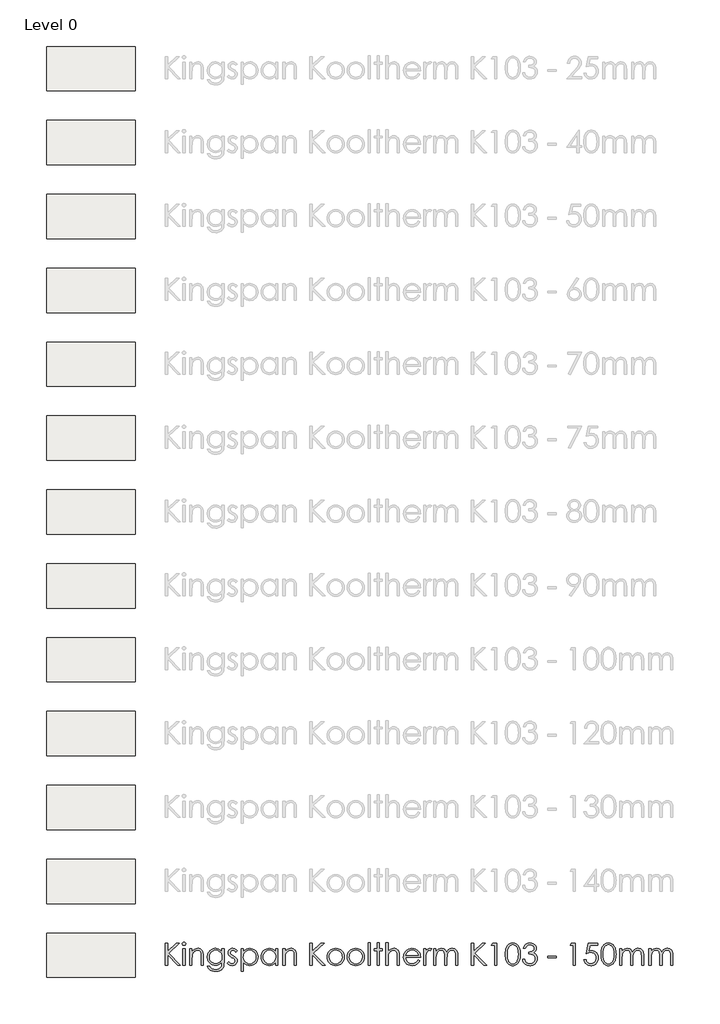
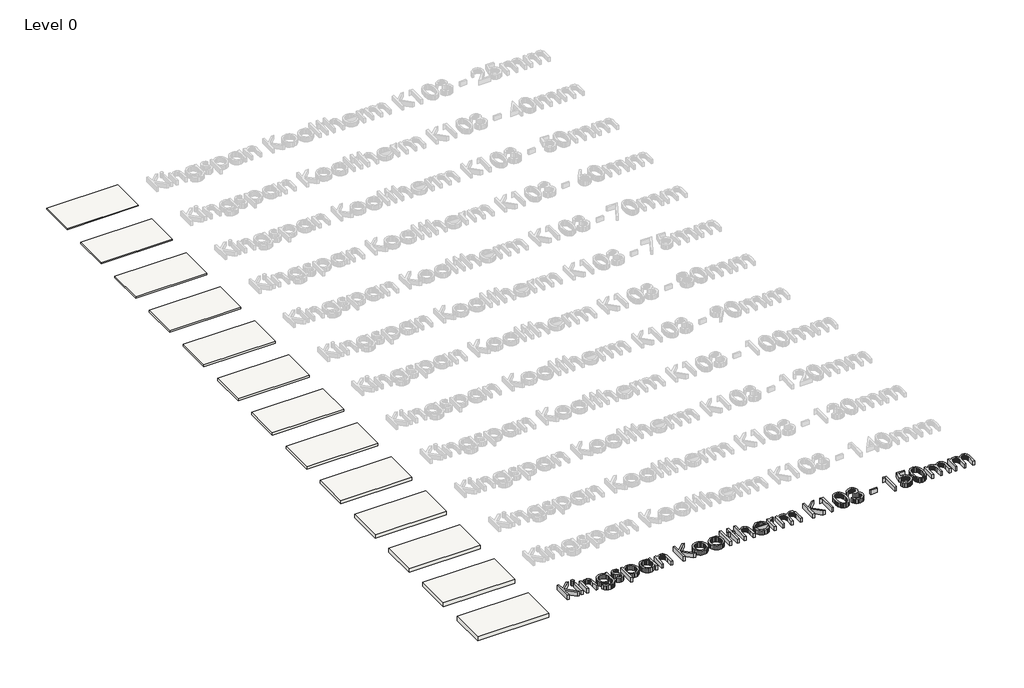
# One storey, part 1 of 13: 13 slabs, 1 proxy.
"""IFC4 building model written with IfcOpenShell, lengths in millimetres."""

from ifc_helpers import new_model, si_unit, frame, origin, origin_with_axes, place, context, project, spatial, polyline, outline, extrude, element, save

model = new_model("IFC4")

# Units and contexts
model_context = context("Model", 3, world=origin())
ifc_project = project(units=[si_unit("LENGTHUNIT", "METRE", prefix="MILLI")], contexts=[model_context])

# Site, building, storey
site = spatial("IfcSite", under=ifc_project)
building = spatial("IfcBuilding", under=site)
storey = spatial("IfcBuildingStorey", under=building, Name="Level 0", Elevation=0.0)

# Proxy
placement = place(None, origin())
element("IfcBuildingElementProxy", 1, Name="600mm KI_CenturyGothic", ObjectType="600mm KI_CenturyGothic", at=placement, inside=storey, context=model_context, shape_type="SweptSolid", body=[
    extrude(outline(polyline([(-3852.2663848, -18099.1034017), (-3792.944575, -18099.1034017), (-3792.944575, -18318.316027), (-3555.1938841, -18099.1034017), (-3471.6181051, -18099.1034017), (-3760.9664119, -18366.0515459), (-3441.9572002, -18692.3214999), (-3520.8984627, -18692.3214999), (-3792.944575, -18414.0960325), (-3792.944575, -18692.3214999), (-3852.2663848, -18692.3214999), (-3852.2663848, -18099.1034017)])), origin_with_axes(), (0.0, 0.0, 1.0), 150.0),
    extrude(outline(polyline([(-3348.1854852, -18069.4424967), (-3329.145347, -18072.7252792), (-3313.1176445, -18082.5736265), (-3302.226531, -18097.0178693), (-3298.5961598, -18114.088338), (-3302.226531, -18130.9270809), (-3313.1176445, -18145.2940817), (-3329.145347, -18155.142429), (-3348.1854852, -18158.4252115), (-3366.9938975, -18155.142429), (-3382.9443581, -18145.2940817), (-3393.8354717, -18130.9270809), (-3397.4658428, -18114.088338), (-3393.8354717, -18097.0178693), (-3382.9443581, -18082.5736265), (-3366.9938975, -18072.7252792), (-3348.1854852, -18069.4424967)])), origin_with_axes(), (0.0, 0.0, 1.0), 150.0),
    extrude(outline(polyline([(-3377.6919062, -18247.4079262), (-3318.3700964, -18247.4079262), (-3318.3700964, -18692.3214999), (-3377.6919062, -18692.3214999), (-3377.6919062, -18247.4079262)])), origin_with_axes(), (0.0, 0.0, 1.0), 150.0),
    extrude(outline(polyline([(-3189.8395084, -18247.4079262), (-3130.5176986, -18247.4079262), (-3130.5176986, -18326.5036726), (-3096.9946967, -18286.9944204), (-3060.0730495, -18259.303185), (-3019.7141359, -18242.9665147), (-2975.879335, -18237.5209579), (-2953.4357238, -18239.0995901), (-2932.2955704, -18243.8354865), (-2912.4588747, -18251.7286472), (-2893.9256368, -18262.7790723), (-2877.212412, -18276.5039994), (-2862.835756, -18292.4206667), (-2841.0921499, -18330.8292213), (-2833.6238199, -18355.2087086), (-2828.2892984, -18385.5551357), (-2824.0216812, -18464.1488095), (-2824.0216812, -18692.3214999), (-2883.343491, -18692.3214999), (-2883.343491, -18479.1337458), (-2883.343491, -18376.092998), (-2884.7290183, -18355.2956057), (-2889.8125035, -18337.2403023), (-2898.2849788, -18321.9270877), (-2910.1464442, -18309.355962), (-2924.7403432, -18299.5558909), (-2941.4101193, -18292.5558401), (-2980.977303, -18286.9557994), (-3005.3471351, -18289.1137461), (-3028.4038541, -18295.5875862), (-3050.1474602, -18306.3773197), (-3070.5779533, -18321.4829466), (-3088.6622225, -18339.7651482), (-3103.3671568, -18360.084606), (-3114.6927562, -18382.44132), (-3122.6390208, -18406.8352901), (-3128.5480292, -18453.9142525), (-3130.5176986, -18528.4141035), (-3130.5176986, -18692.3214999), (-3189.8395084, -18692.3214999), (-3189.8395084, -18247.4079262)])), origin_with_axes(), (0.0, 0.0, 1.0), 150.0),
    extrude(outline(polyline([(-2319.7862977, -18247.4079262), (-2260.4644879, -18247.4079262), (-2260.4644879, -18598.395301), (-2264.5196897, -18678.6496765), (-2269.588692, -18709.4499001), (-2276.6852953, -18734.0321474), (-2289.9371156, -18762.6454585), (-2307.2924139, -18787.7732271), (-2328.7511904, -18809.4154531), (-2354.3134448, -18827.5721366), (-2383.3226209, -18841.9343098), (-2415.122162, -18852.1930049), (-2449.7120682, -18858.348222), (-2487.0923395, -18860.3999611), (-2541.0458345, -18856.3833802), (-2589.206184, -18844.3336376), (-2630.260275, -18825.5059147), (-2662.8949946, -18801.1553932), (-2690.2000204, -18767.8061856), (-2715.2650299, -18721.9824048), (-2655.94322, -18721.9824048), (-2642.4355358, -18743.151524), (-2627.0933555, -18761.3951046), (-2609.9166791, -18776.7131468), (-2590.9055067, -18789.1056506), (-2569.7894914, -18798.6691682), (-2546.2982864, -18805.5002523), (-2492.1903075, -18810.9651195), (-2438.5071593, -18805.6354257), (-2415.083541, -18798.9733084), (-2393.93856, -18789.6463441), (-2359.6624492, -18765.6047903), (-2336.8567664, -18736.1176798), (-2329.3884364, -18717.4782342), (-2324.0539149, -18693.7697863), (-2319.7862977, -18631.1458835), (-2319.7862977, -18608.4367532), (-2354.757586, -18644.2190818), (-2396.6420279, -18670.6165148), (-2443.392712, -18686.8952536), (-2492.9627269, -18692.3214999), (-2522.4063889, -18690.4242447), (-2550.9521133, -18684.7324793), (-2578.5999001, -18675.2462036), (-2605.3497494, -18661.9654175), (-2630.1540674, -18645.4742634), (-2651.9652601, -18626.3568832), (-2670.7833277, -18604.6132772), (-2686.6082702, -18580.2434451), (-2699.1456025, -18553.9280817), (-2708.1008399, -18526.3478816), (-2713.4739824, -18497.5028447), (-2715.2650299, -18467.392971), (-2713.3967404, -18437.1044753), (-2707.7918722, -18407.8780563), (-2698.4504251, -18379.713714), (-2685.3723991, -18352.6114483), (-2668.9971079, -18327.4257483), (-2649.7638648, -18305.0111029), (-2627.67267, -18285.367512), (-2602.7235235, -18268.4949758), (-2575.9833294, -18254.943843), (-2548.5189922, -18245.2644624), (-2520.3305117, -18239.456834), (-2491.4178881, -18237.5209579), (-2444.5320306, -18242.4644421), (-2400.8903346, -18257.2948945), (-2359.6045177, -18283.8661218), (-2319.7862977, -18324.0319306), (-2319.7862977, -18247.4079262)]), holes=[polyline([(-2484.1571458, -18286.9557994), (-2529.0154023, -18292.9806707), (-2570.5908765, -18311.0552847), (-2606.2187212, -18339.7699758), (-2633.2340897, -18377.7150788), (-2650.2659375, -18421.9940208), (-2655.94322, -18469.7102292), (-2653.0080263, -18505.6229036), (-2644.2024452, -18538.2817613), (-2629.5264766, -18567.6868023), (-2608.9801206, -18593.8380266), (-2583.7606272, -18615.296803), (-2555.0652466, -18630.6245004), (-2522.8939786, -18639.8211189), (-2487.2468234, -18642.8866584), (-2451.3244937, -18639.845257), (-2419.1001219, -18630.7210528), (-2390.573708, -18615.5140459), (-2365.7452519, -18594.2242363), (-2345.6382095, -18567.9812872), (-2331.2760363, -18537.9148621), (-2322.6587323, -18504.024961), (-2319.7862977, -18466.3115838), (-2325.0773706, -18417.6105407), (-2340.9505892, -18374.3936754), (-2366.4983608, -18338.1672056), (-2400.8130926, -18310.4373492), (-2440.9982119, -18292.8261869), (-2484.1571458, -18286.9557994)])]), origin_with_axes(), (0.0, 0.0, 1.0), 150.0),
    extrude(outline(polyline([(-1904.5336289, -18298.6965743), (-1940.9918246, -18336.390641), (-1962.9575012, -18314.7628978), (-1984.6721416, -18299.3145098), (-2006.1357456, -18290.045477), (-2027.3483133, -18286.9557994), (-2052.181597, -18291.6289368), (-2073.2300256, -18305.6483489), (-2087.5970264, -18325.8857371), (-2092.3860267, -18349.212803), (-2088.4466878, -18370.7633042), (-2076.628671, -18391.2324183), (-2052.0657341, -18413.400855), (-2010.2006027, -18439.122421), (-1958.3326401, -18471.9888664), (-1939.8428507, -18487.8138088), (-1926.315856, -18503.2332311), (-1909.9791857, -18535.9065716), (-1904.5336289, -18572.4420092), (-1906.9474396, -18598.5884059), (-1914.1888714, -18622.6492701), (-1926.2579245, -18644.624602), (-1943.1545989, -18664.5144015), (-1963.6719892, -18681.0055557), (-1986.6031901, -18692.7849515), (-2011.9482016, -18699.852589), (-2039.7070237, -18702.2084682), (-2077.4397114, -18698.3270607), (-2113.3958344, -18686.6828383), (-2145.4512394, -18668.2027042), (-2171.4817731, -18643.8135617), (-2135.7959969, -18603.3387852), (-2114.0041146, -18624.9665283), (-2091.5749863, -18640.4149163), (-2068.5086121, -18649.6839491), (-2044.8049918, -18652.7736267), (-2013.637869, -18647.1349651), (-1987.4914724, -18630.2189802), (-1969.7644472, -18605.6560434), (-1963.8554388, -18577.0765256), (-1967.7561567, -18553.2860081), (-1979.4583106, -18532.2762005), (-2005.0253927, -18510.5712154), (-2050.2119275, -18483.7682622), (-2099.762632, -18453.1032121), (-2117.441381, -18437.9444814), (-2130.3890611, -18422.9016136), (-2146.3781427, -18390.7689666), (-2151.7078365, -18354.310771), (-2149.5305794, -18330.2643896), (-2142.9988078, -18308.3325063), (-2132.1125219, -18288.5151211), (-2116.8717217, -18270.812234), (-2098.309518, -18256.2473007), (-2077.4590218, -18245.8437769), (-2054.3202332, -18239.6016627), (-2028.8931521, -18237.5209579), (-1997.9481, -18241.3444339), (-1966.9064954, -18252.814862), (-1935.7683384, -18271.9322421), (-1904.5336289, -18298.6965743)])), origin_with_axes(), (0.0, 0.0, 1.0), 150.0),
    extrude(outline(polyline([(-1795.7769776, -18247.4079262), (-1736.4551678, -18247.4079262), (-1736.4551678, -18328.5119631), (-1700.9238754, -18288.2689124), (-1660.4490989, -18259.9211205), (-1614.9922173, -18243.1209986), (-1564.5146096, -18237.5209579), (-1520.0618732, -18241.7596094), (-1478.9305402, -18254.4755637), (-1441.1206107, -18275.668821), (-1406.6320845, -18305.3393811), (-1377.9077381, -18340.9768811), (-1357.3903478, -18380.070958), (-1345.0799137, -18422.6216116), (-1340.9764356, -18468.628842), (-1345.0412927, -18515.5291824), (-1357.235864, -18558.7508754), (-1377.5601494, -18598.293921), (-1406.014149, -18634.1583192), (-1440.2130179, -18663.9302594), (-1477.7719111, -18685.1959309), (-1518.6908288, -18697.9553339), (-1562.9697708, -18702.2084682), (-1612.6170277, -18696.743601), (-1658.0545988, -18680.3489992), (-1699.3211052, -18653.1019049), (-1736.4551678, -18615.07956), (-1736.4551678, -18850.5129928), (-1795.7769776, -18850.5129928), (-1795.7769776, -18247.4079262)]), holes=[polyline([(-1568.5311905, -18286.9557994), (-1602.5852307, -18290.2530647), (-1633.8392507, -18300.1448607), (-1662.2932503, -18316.6311872), (-1687.9472295, -18339.7120444), (-1709.1694525, -18367.6977647), (-1724.3281832, -18398.8986808), (-1733.4234216, -18433.3147926), (-1736.4551678, -18470.9461002), (-1731.048232, -18519.8016272), (-1714.8274246, -18563.4819442), (-1688.5265441, -18600.3263495), (-1652.8793888, -18628.6741414), (-1611.4390881, -18646.7487554), (-1567.7587711, -18652.7736267), (-1525.0632888, -18646.7101344), (-1485.0326535, -18628.5196576), (-1450.2544701, -18599.4187567), (-1423.3163435, -18560.6239924), (-1406.05277, -18515.9588407), (-1400.2982454, -18469.2467775), (-1405.9948385, -18422.3029886), (-1423.0846177, -18377.8695627), (-1449.8103289, -18339.5189395), (-1484.414718, -18310.8235589), (-1524.7157001, -18292.9227393), (-1568.5311905, -18286.9557994)])]), origin_with_axes(), (0.0, 0.0, 1.0), 150.0),
    extrude(outline(polyline([(-807.0801472, -18247.4079262), (-807.0801472, -18692.3214999), (-866.401957, -18692.3214999), (-866.401957, -18616.4699149), (-903.4780882, -18654.3184655), (-944.8797679, -18681.0441767), (-990.4525125, -18696.9173953), (-1040.0418379, -18702.2084682), (-1084.3159523, -18697.9553339), (-1125.2203871, -18685.1959309), (-1162.7551422, -18663.9302594), (-1196.9202178, -18634.1583192), (-1225.340424, -18598.293921), (-1245.6405713, -18558.7508754), (-1257.8206597, -18515.5291824), (-1261.8806892, -18468.628842), (-1257.7820388, -18422.6216116), (-1245.4860875, -18380.070958), (-1224.9928353, -18340.9768811), (-1196.3022822, -18305.3393811), (-1161.8475494, -18275.668821), (-1124.061758, -18254.4755637), (-1082.9449079, -18241.7596094), (-1038.4969991, -18237.5209579), (-987.7490446, -18243.1209986), (-942.0990581, -18259.9211205), (-921.2051134, -18272.6081091), (-901.6242816, -18288.2689124), (-866.401957, -18328.5119631), (-866.401957, -18247.4079262), (-807.0801472, -18247.4079262)]), holes=[polyline([(-1034.3259343, -18286.9557994), (-1078.1414247, -18292.9227393), (-1118.4424068, -18310.8235589), (-1153.0467959, -18339.5189395), (-1179.7725071, -18377.8695627), (-1196.8622863, -18422.3029886), (-1202.5588794, -18469.2467775), (-1196.8043548, -18515.9588407), (-1179.5407813, -18560.6239924), (-1152.6026548, -18599.4187567), (-1117.8244713, -18628.5196576), (-1077.6779731, -18646.7101344), (-1034.6349021, -18652.7736267), (-991.0125165, -18646.7487554), (-949.7460102, -18628.6741414), (-914.2726493, -18600.3263495), (-888.0297002, -18563.4819442), (-871.8088928, -18519.8016272), (-866.401957, -18470.9461002), (-869.4337032, -18433.3147926), (-878.5289416, -18398.8986808), (-893.6876723, -18367.6977647), (-914.9098953, -18339.7120444), (-940.5638746, -18316.6311872), (-969.0178742, -18300.1448607), (-1000.2718941, -18290.2530647), (-1034.3259343, -18286.9557994)])]), origin_with_axes(), (0.0, 0.0, 1.0), 150.0),
    extrude(outline(polyline([(-668.662591, -18247.4079262), (-609.3407811, -18247.4079262), (-609.3407811, -18326.5036726), (-575.8177792, -18286.9944204), (-538.896132, -18259.303185), (-498.5372184, -18242.9665147), (-454.7024175, -18237.5209579), (-432.2588064, -18239.0995901), (-411.1186529, -18243.8354865), (-391.2819572, -18251.7286472), (-372.7487193, -18262.7790723), (-356.0354946, -18276.5039994), (-341.6588385, -18292.4206667), (-319.9152324, -18330.8292213), (-312.4469024, -18355.2087086), (-307.1123809, -18385.5551357), (-302.8447637, -18464.1488095), (-302.8447637, -18692.3214999), (-362.1665735, -18692.3214999), (-362.1665735, -18479.1337458), (-362.1665735, -18376.092998), (-363.5521008, -18355.2956057), (-368.635586, -18337.2403023), (-377.1080613, -18321.9270877), (-388.9695267, -18309.355962), (-403.5634257, -18299.5558909), (-420.2332018, -18292.5558401), (-459.8003855, -18286.9557994), (-484.1702176, -18289.1137461), (-507.2269366, -18295.5875862), (-528.9705427, -18306.3773197), (-549.4010358, -18321.4829466), (-567.485305, -18339.7651482), (-582.1902393, -18360.084606), (-593.5158387, -18382.44132), (-601.4621033, -18406.8352901), (-607.3711117, -18453.9142525), (-609.3407811, -18528.4141035), (-609.3407811, -18692.3214999), (-668.662591, -18692.3214999), (-668.662591, -18247.4079262)])), origin_with_axes(), (0.0, 0.0, 1.0), 150.0),
    extrude(outline(polyline([(62.9730635, -18099.1034017), (122.2948734, -18099.1034017), (122.2948734, -18318.316027), (360.0455643, -18099.1034017), (443.6213432, -18099.1034017), (154.2730365, -18366.0515459), (473.2822481, -18692.3214999), (394.3409856, -18692.3214999), (122.2948734, -18414.0960325), (122.2948734, -18692.3214999), (62.9730635, -18692.3214999), (62.9730635, -18099.1034017)])), origin_with_axes(), (0.0, 0.0, 1.0), 150.0),
    extrude(outline(polyline([(760.1588128, -18237.5209579), (809.4681362, -18242.1458191), (854.3553585, -18256.0204025), (894.8204798, -18279.1447083), (930.8635, -18311.5187363), (957.7630055, -18346.7507161), (976.9769381, -18385.091684), (988.5052976, -18426.54164), (992.3480841, -18471.1005841), (988.283227, -18515.9153921), (976.0886558, -18557.8239721), (955.7643703, -18596.8263241), (927.3103707, -18632.9224481), (892.4742558, -18663.2350819), (853.0036246, -18684.8869632), (808.8984769, -18697.8780919), (760.1588128, -18702.2084682), (711.2839754, -18697.8780919), (667.0822753, -18684.8869632), (627.5537126, -18663.2350819), (592.6982872, -18632.9224481), (564.2442876, -18596.8263241), (543.9200022, -18557.8239721), (531.7254309, -18515.9153921), (527.6605738, -18471.1005841), (531.5033603, -18426.7347449), (543.0317198, -18385.4006518), (562.2456524, -18347.0983049), (589.145158, -18311.8277041), (625.2074886, -18279.3185026), (665.7305413, -18256.0976445), (710.7143161, -18242.1651295), (760.1588128, -18237.5209579)]), holes=[polyline([(760.004329, -18286.9557994), (725.7282181, -18290.3303067), (693.9624704, -18300.4538284), (664.7070856, -18317.3263647), (637.962064, -18340.9479154), (615.6584538, -18369.3584664), (599.7273037, -18400.5980035), (590.1686137, -18434.6665266), (586.9823836, -18471.5640357), (592.7948396, -18519.2995546), (610.2322075, -18563.6364281), (637.5758543, -18601.4270471), (673.1071466, -18629.5238028), (714.6439998, -18646.9611707), (760.004329, -18652.7736267), (805.3646581, -18646.9611707), (846.9015113, -18629.5238028), (882.4328037, -18601.4270471), (909.7764504, -18563.6364281), (927.2138183, -18519.2995546), (933.0262743, -18471.5640357), (929.8255614, -18434.6665266), (920.2234227, -18400.5980035), (904.2198583, -18369.3584664), (881.8148681, -18340.9479154), (854.9974321, -18317.3263647), (825.7565303, -18300.4538284), (794.0921625, -18290.3303067), (760.004329, -18286.9557994)])]), origin_with_axes(), (0.0, 0.0, 1.0), 150.0),
    extrude(outline(polyline([(1303.9420695, -18237.5209579), (1353.2513929, -18242.1458191), (1398.1386152, -18256.0204025), (1438.6037365, -18279.1447083), (1474.6467567, -18311.5187363), (1501.5462622, -18346.7507161), (1520.7601948, -18385.091684), (1532.2885543, -18426.54164), (1536.1313408, -18471.1005841), (1532.0664837, -18515.9153921), (1519.8719125, -18557.8239721), (1499.547627, -18596.8263241), (1471.0936274, -18632.9224481), (1436.2575126, -18663.2350819), (1396.7868813, -18684.8869632), (1352.6817336, -18697.8780919), (1303.9420695, -18702.2084682), (1255.0672321, -18697.8780919), (1210.865532, -18684.8869632), (1171.3369693, -18663.2350819), (1136.4815439, -18632.9224481), (1108.0275443, -18596.8263241), (1087.7032589, -18557.8239721), (1075.5086876, -18515.9153921), (1071.4438305, -18471.1005841), (1075.286617, -18426.7347449), (1086.8149766, -18385.4006518), (1106.0289091, -18347.0983049), (1132.9284147, -18311.8277041), (1168.9907453, -18279.3185026), (1209.5137981, -18256.0976445), (1254.4975728, -18242.1651295), (1303.9420695, -18237.5209579)]), holes=[polyline([(1303.7875857, -18286.9557994), (1269.5114748, -18290.3303067), (1237.7457271, -18300.4538284), (1208.4903423, -18317.3263647), (1181.7453207, -18340.9479154), (1159.4417105, -18369.3584664), (1143.5105604, -18400.5980035), (1133.9518704, -18434.6665266), (1130.7656404, -18471.5640357), (1136.5780963, -18519.2995546), (1154.0154643, -18563.6364281), (1181.359111, -18601.4270471), (1216.8904033, -18629.5238028), (1258.4272565, -18646.9611707), (1303.7875857, -18652.7736267), (1349.1479149, -18646.9611707), (1390.684768, -18629.5238028), (1426.2160604, -18601.4270471), (1453.5597071, -18563.6364281), (1470.997075, -18519.2995546), (1476.809531, -18471.5640357), (1473.6088181, -18434.6665266), (1464.0066795, -18400.5980035), (1448.003115, -18369.3584664), (1425.5981249, -18340.9479154), (1398.7806889, -18317.3263647), (1369.539787, -18300.4538284), (1337.8754193, -18290.3303067), (1303.7875857, -18286.9557994)])]), origin_with_axes(), (0.0, 0.0, 1.0), 150.0),
    extrude(outline(polyline([(1635.0010238, -18079.3294651), (1694.3228337, -18079.3294651), (1694.3228337, -18692.3214999), (1635.0010238, -18692.3214999), (1635.0010238, -18079.3294651)])), origin_with_axes(), (0.0, 0.0, 1.0), 150.0),
    extrude(outline(polyline([(1882.1752314, -18079.3294651), (1941.4970413, -18079.3294651), (1941.4970413, -18247.4079262), (2020.5927877, -18247.4079262), (2020.5927877, -18296.8427677), (1941.4970413, -18296.8427677), (1941.4970413, -18692.3214999), (1882.1752314, -18692.3214999), (1882.1752314, -18296.8427677), (1803.079485, -18296.8427677), (1803.079485, -18247.4079262), (1882.1752314, -18247.4079262), (1882.1752314, -18079.3294651)])), origin_with_axes(), (0.0, 0.0, 1.0), 150.0),
    extrude(outline(polyline([(2119.4624707, -18079.3294651), (2178.7842806, -18079.3294651), (2178.7842806, -18328.0485114), (2212.5583188, -18288.3461544), (2249.6151394, -18260.0756044), (2289.9161216, -18243.1596195), (2333.4226442, -18237.5209579), (2355.8662553, -18239.0995901), (2377.0064088, -18243.8354865), (2396.8431044, -18251.7286472), (2415.3763424, -18262.7790723), (2432.0895671, -18276.4895166), (2446.4662232, -18292.3627352), (2468.2098293, -18330.5974955), (2475.6781593, -18354.9045684), (2481.0126808, -18385.2654784), (2485.280298, -18464.1488095), (2485.280298, -18692.3214999), (2425.9584882, -18692.3214999), (2425.9584882, -18479.1337458), (2424.5681332, -18414.752589), (2420.3970685, -18376.092998), (2406.879729, -18337.2403023), (2397.1665551, -18321.9270877), (2385.4837117, -18309.355962), (2371.840854, -18299.5558909), (2356.2476374, -18292.5558401), (2319.2101273, -18286.9557994), (2296.3416854, -18289.1137461), (2274.6994594, -18295.5875862), (2254.2834492, -18306.3773197), (2235.0936547, -18321.4829466), (2218.1052556, -18339.7651482), (2204.2934312, -18360.084606), (2193.6581816, -18382.44132), (2186.1995068, -18406.8352901), (2180.6380871, -18453.6825267), (2178.7842806, -18528.4141035), (2178.7842806, -18692.3214999), (2119.4624707, -18692.3214999), (2119.4624707, -18079.3294651)])), origin_with_axes(), (0.0, 0.0, 1.0), 150.0),
    extrude(outline(polyline([(2991.0605203, -18544.0169753), (3038.950523, -18569.1978477), (3013.3255094, -18611.0822896), (2984.0315038, -18644.0452875), (2950.952643, -18669.1296074), (2913.9730643, -18687.3780157), (2872.4941426, -18698.5008551), (2825.9172528, -18702.2084682), (2774.4258447, -18697.7767119), (2728.8627554, -18684.481443), (2689.227985, -18662.3226615), (2655.5215335, -18631.3003674), (2628.6220279, -18594.6973431), (2609.4080954, -18555.7963712), (2597.8797358, -18514.5974515), (2594.0369493, -18471.1005841), (2597.3197318, -18430.2202874), (2607.1680791, -18391.618628), (2623.5819913, -18355.2956057), (2646.5614684, -18321.2512207), (2682.7493173, -18284.6192308), (2724.5758277, -18258.4535236), (2772.0409998, -18242.7540993), (2825.1448334, -18237.5209579), (2879.7935059, -18242.8892727), (2928.6490329, -18258.9942172), (2971.7114143, -18285.8357913), (3008.9806503, -18323.4139951), (3030.4539096, -18355.585263), (3045.9022976, -18391.541386), (3055.3258143, -18431.2823641), (3058.7244596, -18474.8081972), (2653.3587591, -18474.8081972), (2657.095338, -18512.0629503), (2666.6057518, -18545.8128504), (2681.8900007, -18576.0578975), (2702.9480845, -18602.7980916), (2728.3124066, -18624.6623882), (2756.5153699, -18640.2797429), (2787.5569744, -18649.6501557), (2821.4372203, -18652.7736267), (2854.9602222, -18649.761191), (2887.5563208, -18640.7238841), (2917.2944677, -18626.6851615), (2942.2436143, -18608.668479), (2965.725164, -18582.5027719), (2991.0605203, -18544.0169753)]), holes=[polyline([(2999.4026498, -18425.3733557), (2984.9777175, -18382.8516678), (2965.1844704, -18349.8307385), (2939.0766947, -18324.3022774), (2905.7081767, -18304.257994), (2867.7630738, -18291.2813481), (2827.9255433, -18286.9557994), (2795.503239, -18289.6689226), (2765.4368139, -18297.808292), (2737.726268, -18311.3739077), (2712.3716012, -18330.3657696), (2695.8321708, -18348.179692), (2681.4362043, -18369.9522638), (2669.1837016, -18395.683485), (2659.0746627, -18425.3733557), (2999.4026498, -18425.3733557)])]), origin_with_axes(), (0.0, 0.0, 1.0), 150.0),
    extrude(outline(polyline([(3137.820206, -18247.4079262), (3197.1420159, -18247.4079262), (3197.1420159, -18311.8277041), (3222.6897875, -18278.7874643), (3249.589293, -18255.6728138), (3277.7632906, -18242.0589219), (3307.1345382, -18237.5209579), (3330.4616041, -18241.305813), (3355.3335087, -18252.6603781), (3325.8270877, -18294.6799934), (3297.2475699, -18286.9557994), (3270.8308265, -18292.9034288), (3245.3409863, -18310.7463169), (3223.2884125, -18341.1023993), (3207.183468, -18384.5896114), (3199.6523789, -18442.7141712), (3197.1420159, -18540.1548783), (3197.1420159, -18692.3214999), (3137.820206, -18692.3214999), (3137.820206, -18247.4079262)])), origin_with_axes(), (0.0, 0.0, 1.0), 150.0),
    extrude(outline(polyline([(3414.6553185, -18247.4079262), (3473.9771284, -18247.4079262), (3473.9771284, -18323.5684789), (3503.5607913, -18287.0716623), (3533.9168737, -18261.9294109), (3577.3268439, -18243.6230712), (3622.8995884, -18237.5209579), (3653.7384329, -18240.668567), (3682.9165757, -18250.1113941), (3708.6767627, -18264.7873627), (3729.2617397, -18283.634396), (3746.0425511, -18309.0663047), (3760.3902414, -18343.4968994), (3775.16759, -18319.0981017), (3791.6925376, -18297.808292), (3809.965084, -18279.6274704), (3829.9852293, -18264.5556369), (3851.2798666, -18252.7279648), (3873.375889, -18244.2796277), (3896.2732965, -18239.2106253), (3919.9720892, -18237.5209579), (3962.3006723, -18243.3334139), (3981.4952943, -18250.5989839), (3999.3768034, -18260.7707818), (4015.4914031, -18273.53984), (4029.385297, -18288.5971907), (4050.5109676, -18325.5767694), (4057.8103309, -18348.9521114), (4063.0241619, -18377.5219739), (4067.1952266, -18450.2452603), (4067.1952266, -18692.3214999), (4007.8734168, -18692.3214999), (4007.8734168, -18446.6921311), (4005.4209852, -18385.5744462), (3998.0636904, -18347.1272706), (3984.7587663, -18322.6608861), (3964.4634466, -18303.4855746), (3938.3942919, -18291.0882432), (3907.7678627, -18286.9557994), (3888.1194442, -18288.5054659), (3869.3399976, -18293.1544651), (3834.3880198, -18311.7504621), (3805.6540182, -18340.6968791), (3785.8800816, -18377.9468046), (3779.1889985, -18402.1042213), (3774.4096535, -18433.1747916), (3770.5861775, -18516.0553931), (3770.5861775, -18692.3214999), (3711.2643677, -18692.3214999), (3711.2643677, -18461.9860352), (3708.850557, -18393.530366), (3701.6091252, -18351.2983353), (3688.3621325, -18325.0553863), (3667.9316394, -18304.5669617), (3641.6114484, -18291.35859), (3610.6953619, -18286.9557994), (3573.7544042, -18292.9999812), (3539.2465676, -18311.1325266), (3510.2808401, -18339.499629), (3489.9662099, -18376.2474819), (3477.9743988, -18428.0768236), (3473.9771284, -18501.6883923), (3473.9771284, -18692.3214999), (3414.6553185, -18692.3214999), (3414.6553185, -18247.4079262)])), origin_with_axes(), (0.0, 0.0, 1.0), 150.0),
    extrude(outline(polyline([(4433.0130538, -18099.1034017), (4492.3348637, -18099.1034017), (4492.3348637, -18318.316027), (4730.0855546, -18099.1034017), (4813.6613335, -18099.1034017), (4524.3130268, -18366.0515459), (4843.3222385, -18692.3214999), (4764.3809759, -18692.3214999), (4492.3348637, -18414.0960325), (4492.3348637, -18692.3214999), (4433.0130538, -18692.3214999), (4433.0130538, -18099.1034017)])), origin_with_axes(), (0.0, 0.0, 1.0), 150.0),
    extrude(outline(polyline([(5010.6282802, -18099.1034017), (5125.1008351, -18099.1034017), (5125.1008351, -18692.3214999), (5065.7790253, -18692.3214999), (5065.7790253, -18148.5382432), (4976.7963106, -18148.5382432), (5010.6282802, -18099.1034017)])), origin_with_axes(), (0.0, 0.0, 1.0), 150.0),
    extrude(outline(polyline([(5352.5011061, -18395.8669347), (5354.0797383, -18341.4355052), (5358.8156347, -18293.5406748), (5366.7087954, -18252.1824436), (5377.7592204, -18217.3608116), (5391.6869077, -18187.7192172), (5408.2118552, -18161.9010988), (5427.334063, -18139.9064564), (5449.053531, -18121.73529), (5472.747496, -18107.5082902), (5497.793195, -18097.3461475), (5524.190628, -18091.2488619), (5551.9397949, -18089.2164334), (5580.1427582, -18091.2633448), (5606.974677, -18097.404079), (5632.4355515, -18107.638636), (5656.5253815, -18121.9670159), (5678.7083011, -18140.3843909), (5698.4484443, -18162.8859335), (5715.7458112, -18189.4716437), (5730.6004018, -18220.1415214), (5742.5294539, -18255.6583309), (5751.0502054, -18296.7848363), (5756.1626563, -18343.5210375), (5757.8668066, -18395.8669347), (5756.1867944, -18448.0535203), (5751.1467578, -18494.6207548), (5742.7466968, -18535.5686382), (5730.9866115, -18570.8971704), (5716.2768496, -18601.4222195), (5699.0277589, -18627.9596535), (5679.2393394, -18650.5094723), (5656.9115912, -18669.071676), (5632.6527944, -18683.5690226), (5607.0712295, -18693.9242701), (5580.1668963, -18700.1374187), (5551.9397949, -18702.2084682), (5524.2147661, -18700.2001778), (5497.8897474, -18694.1753064), (5472.964739, -18684.1338543), (5449.4397407, -18670.0758212), (5427.8651013, -18652.0398282), (5408.7911698, -18630.0644964), (5392.2179461, -18604.1498255), (5378.1454301, -18574.2958158), (5366.9260384, -18539.2762513), (5358.9121871, -18497.8649163), (5354.1038764, -18450.0618107), (5352.5011061, -18395.8669347)]), holes=[polyline([(5411.8229159, -18395.7124508), (5416.206396, -18484.038609), (5421.6857461, -18519.0195525), (5429.3568363, -18547.8790723), (5439.1713903, -18572.1185586), (5451.0811319, -18593.2394015), (5465.0860611, -18611.2416011), (5481.1861779, -18626.1251574), (5516.4857445, -18646.1115094), (5534.8886366, -18651.1080973), (5553.7936014, -18652.7736267), (5572.7854634, -18651.1418907), (5591.1400794, -18646.2466828), (5625.9375733, -18626.665851), (5641.694929, -18611.9898824), (5655.4439943, -18594.0697524), (5667.1847692, -18572.9054608), (5676.9172536, -18548.4970078), (5686.3793912, -18515.1381451), (5693.138061, -18478.5544313), (5698.5449967, -18395.7124508), (5693.7173755, -18314.1063413), (5687.682849, -18279.4150551), (5679.2345118, -18248.7982811), (5668.652366, -18222.135329), (5656.2164137, -18199.3055082), (5641.9266548, -18180.3088186), (5625.7830894, -18165.1452603), (5590.7152487, -18145.2747712), (5572.4861509, -18140.307149), (5553.7936014, -18138.6512749), (5534.7776014, -18140.307149), (5516.3505711, -18145.2747712), (5481.2634199, -18165.1452603), (5465.3177869, -18179.9564022), (5451.3900996, -18197.8958428), (5439.480358, -18218.9635819), (5429.5885621, -18243.1596195), (5421.8160919, -18272.0143117), (5416.2643275, -18307.0580143), (5411.8229159, -18395.7124508)])]), origin_with_axes(), (0.0, 0.0, 1.0), 150.0),
    extrude(outline(polyline([(5896.2843628, -18237.5209579), (5836.962553, -18237.5209579), (5847.4867673, -18203.8917483), (5861.9116996, -18174.3756721), (5880.2373498, -18148.9727291), (5902.463718, -18127.6829194), (5927.7314876, -18110.8538318), (5955.181342, -18098.8330549), (5984.8132812, -18091.6205887), (6016.6273051, -18089.2164334), (6062.9145376, -18094.3723328), (6105.9962296, -18109.8400313), (6142.7827034, -18134.0553795), (6170.1842816, -18165.454228), (6187.2161294, -18201.2365567), (6192.8934119, -18238.6023451), (6188.2106193, -18274.037085), (6174.1622415, -18305.5711069), (6150.7482785, -18333.2044109), (6117.9687303, -18356.936997), (6155.3538292, -18378.1012885), (6185.3237018, -18407.2987418), (6201.6120959, -18431.398227), (6213.2466631, -18456.8880672), (6220.2274034, -18483.7682622), (6222.5543169, -18512.0388122), (6220.8549942, -18536.7031292), (6215.7570261, -18560.7977868), (6207.2604128, -18584.3227851), (6195.365154, -18607.2781241), (6180.5347016, -18628.6644862), (6163.232507, -18647.4825538), (6143.4585704, -18663.7323269), (6121.2128917, -18677.4138055), (6097.0361646, -18688.2614704), (6071.4690825, -18696.0098025), (6044.5116454, -18700.6588018), (6016.1638535, -18702.2084682), (5978.6290984, -18699.5387936), (5944.3481599, -18691.52977), (5913.3210382, -18678.1813973), (5885.5477332, -18659.4936754), (5861.6654909, -18635.6403989), (5842.3115573, -18606.795362), (5827.4859325, -18572.9585647), (5817.1886164, -18534.130007), (5876.5104262, -18534.130007), (5895.5505644, -18584.8779615), (5907.6485832, -18604.169136), (5921.4652352, -18619.4051087), (5941.5288291, -18634.0038353), (5964.180028, -18644.4314972), (5989.4188318, -18650.6880943), (6017.2452407, -18652.7736267), (6048.6054683, -18650.2777465), (6076.7215344, -18642.7901059), (6101.593439, -18630.310705), (6123.2211822, -18612.8395438), (6140.7261368, -18592.0180133), (6153.2296758, -18569.487505), (6160.7317992, -18545.2480188), (6163.232507, -18519.2995546), (6158.2310914, -18484.7337865), (6143.2268446, -18452.4080346), (6119.8032263, -18425.0450774), (6089.5436964, -18405.3676933), (6046.6357988, -18392.5648417), (5985.2670776, -18385.8254825), (5985.2670776, -18336.390641), (6027.1515195, -18332.7409593), (6065.0580014, -18321.7919143), (6096.0706403, -18305.2042077), (6117.2735528, -18284.6385412), (6129.4970898, -18261.0797496), (6133.5716021, -18235.5126675), (6131.5102078, -18216.4821845), (6125.326025, -18198.7841251), (6115.0190537, -18182.4184891), (6100.5892938, -18167.3852765), (6083.0119248, -18154.8141508), (6063.2621263, -18145.8347753), (6041.3398983, -18140.44715), (6017.2452407, -18138.6512749), (5979.2228958, -18144.270626), (5946.7233496, -18161.1286794), (5932.4191078, -18174.3322235), (5919.2445295, -18191.4654513), (5896.2843628, -18237.5209579)])), origin_with_axes(), (0.0, 0.0, 1.0), 150.0),
    extrude(outline(polyline([(6499.3894294, -18445.1472923), (6726.7897004, -18445.1472923), (6726.7897004, -18494.5821338), (6499.3894294, -18494.5821338), (6499.3894294, -18445.1472923)])), origin_with_axes(), (0.0, 0.0, 1.0), 150.0),
    extrude(outline(polyline([(7136.3264656, -18099.1034017), (7250.7990205, -18099.1034017), (7250.7990205, -18692.3214999), (7191.4772106, -18692.3214999), (7191.4772106, -18148.5382432), (7102.4944959, -18148.5382432), (7136.3264656, -18099.1034017)])), origin_with_axes(), (0.0, 0.0, 1.0), 150.0),
    extrude(outline(polyline([(7853.904087, -18099.1034017), (7853.904087, -18148.5382432), (7646.5867204, -18148.5382432), (7612.1368152, -18309.5104459), (7649.7150189, -18300.0096873), (7683.3538838, -18296.8427677), (7722.9403779, -18300.2655512), (7758.8965009, -18310.5339016), (7791.2222528, -18327.6478189), (7819.9176335, -18351.6073031), (7843.4378041, -18380.9157917), (7860.2379261, -18414.076722), (7870.3179992, -18451.090094), (7873.6780236, -18491.9559079), (7871.9545628, -18520.9216353), (7866.7841805, -18548.6514917), (7858.1668766, -18575.1454771), (7846.1026511, -18600.4035914), (7831.0984042, -18623.6051391), (7813.6610363, -18643.9294246), (7793.7905473, -18661.3764477), (7771.4869371, -18675.9462086), (7747.054346, -18687.4359472), (7720.7969141, -18695.6429033), (7692.7146413, -18700.567077), (7662.8075277, -18702.2084682), (7627.4741679, -18699.4518965), (7595.008415, -18691.1821813), (7565.4102692, -18677.3993226), (7538.6797304, -18658.1033205), (7515.9271515, -18634.4334936), (7498.2628853, -18607.5291604), (7485.686932, -18577.390321), (7478.1992914, -18544.0169753), (7537.5211013, -18544.0169753), (7547.0991018, -18576.7482474), (7561.6205865, -18602.6436077), (7581.4524546, -18622.9582379), (7606.9616052, -18638.9473194), (7635.9852641, -18649.3170499), (7666.360657, -18652.7736267), (7695.6498351, -18649.8480882), (7722.8052045, -18641.0714728), (7747.8267654, -18626.4437804), (7770.7145178, -18605.9650111), (7789.8077598, -18581.0931065), (7803.4457898, -18553.2860081), (7811.6286078, -18522.543716), (7814.3562138, -18488.8662303), (7811.8941269, -18458.6791146), (7804.5078664, -18431.4561585), (7792.1974323, -18407.1973617), (7774.9628244, -18385.9027244), (7753.6054281, -18368.5667365), (7728.9266283, -18356.183888), (7700.9264251, -18348.754179), (7669.6048185, -18346.2776093), (7640.8997825, -18348.1314158), (7609.3174844, -18353.6928355), (7537.5211013, -18375.9385142), (7596.8429111, -18099.1034017), (7853.904087, -18099.1034017)])), origin_with_axes(), (0.0, 0.0, 1.0), 150.0),
    extrude(outline(polyline([(7942.8868017, -18395.8669347), (7944.4654339, -18341.4355052), (7949.2013303, -18293.5406748), (7957.094491, -18252.1824436), (7968.1449161, -18217.3608116), (7982.0726034, -18187.7192172), (7998.5975509, -18161.9010988), (8017.7197586, -18139.9064564), (8039.4392266, -18121.73529), (8063.1331916, -18107.5082902), (8088.1788906, -18097.3461475), (8114.5763236, -18091.2488619), (8142.3254905, -18089.2164334), (8170.5284538, -18091.2633448), (8197.3603726, -18097.404079), (8222.8212471, -18107.638636), (8246.9110771, -18121.9670159), (8269.0939967, -18140.3843909), (8288.8341399, -18162.8859335), (8306.1315069, -18189.4716437), (8320.9860974, -18220.1415214), (8332.9151495, -18255.6583309), (8341.435901, -18296.7848363), (8346.5483519, -18343.5210375), (8348.2525022, -18395.8669347), (8346.57249, -18448.0535203), (8341.5324534, -18494.6207548), (8333.1323925, -18535.5686382), (8321.3723071, -18570.8971704), (8306.6625452, -18601.4222195), (8289.4134545, -18627.9596535), (8269.625035, -18650.5094723), (8247.2972868, -18669.071676), (8223.03849, -18683.5690226), (8197.4569251, -18693.9242701), (8170.5525919, -18700.1374187), (8142.3254905, -18702.2084682), (8114.6004617, -18700.2001778), (8088.2754431, -18694.1753064), (8063.3504346, -18684.1338543), (8039.8254363, -18670.0758212), (8018.2507969, -18652.0398282), (7999.1768654, -18630.0644964), (7982.6036417, -18604.1498255), (7968.5311258, -18574.2958158), (7957.311734, -18539.2762513), (7949.2978827, -18497.8649163), (7944.489572, -18450.0618107), (7942.8868017, -18395.8669347)]), holes=[polyline([(8002.2086116, -18395.7124508), (8006.5920916, -18484.038609), (8012.0714418, -18519.0195525), (8019.7425319, -18547.8790723), (8029.5570859, -18572.1185586), (8041.4668275, -18593.2394015), (8055.4717567, -18611.2416011), (8071.5718736, -18626.1251574), (8106.8714401, -18646.1115094), (8125.2743323, -18651.1080973), (8144.179297, -18652.7736267), (8163.171159, -18651.1418907), (8181.525775, -18646.2466828), (8216.3232689, -18626.665851), (8232.0806246, -18611.9898824), (8245.8296899, -18594.0697524), (8257.5704648, -18572.9054608), (8267.3029492, -18548.4970078), (8276.7650868, -18515.1381451), (8283.5237566, -18478.5544313), (8288.9306924, -18395.7124508), (8284.1030711, -18314.1063413), (8278.0685446, -18279.4150551), (8269.6202074, -18248.7982811), (8259.0380616, -18222.135329), (8246.6021093, -18199.3055082), (8232.3123504, -18180.3088186), (8216.168785, -18165.1452603), (8181.1009443, -18145.2747712), (8162.8718465, -18140.307149), (8144.179297, -18138.6512749), (8125.163297, -18140.307149), (8106.7362667, -18145.2747712), (8071.6491155, -18165.1452603), (8055.7034825, -18179.9564022), (8041.7757953, -18197.8958428), (8029.8660536, -18218.9635819), (8019.9742577, -18243.1596195), (8012.2017875, -18272.0143117), (8006.6500231, -18307.0580143), (8002.2086116, -18395.7124508)])]), origin_with_axes(), (0.0, 0.0, 1.0), 150.0),
    extrude(outline(polyline([(8447.1221852, -18247.4079262), (8506.4439951, -18247.4079262), (8506.4439951, -18323.5684789), (8536.027658, -18287.0716623), (8566.3837404, -18261.9294109), (8609.7937106, -18243.6230712), (8655.3664551, -18237.5209579), (8686.2052996, -18240.668567), (8715.3834424, -18250.1113941), (8741.1436294, -18264.7873627), (8761.7286063, -18283.634396), (8778.5094178, -18309.0663047), (8792.8571081, -18343.4968994), (8807.6344567, -18319.0981017), (8824.1594042, -18297.808292), (8842.4319506, -18279.6274704), (8862.4520959, -18264.5556369), (8883.7467332, -18252.7279648), (8905.8427557, -18244.2796277), (8928.7401632, -18239.2106253), (8952.4389559, -18237.5209579), (8994.7675389, -18243.3334139), (9013.962161, -18250.5989839), (9031.8436701, -18260.7707818), (9047.9582698, -18273.53984), (9061.8521637, -18288.5971907), (9082.9778343, -18325.5767694), (9090.2771976, -18348.9521114), (9095.4910285, -18377.5219739), (9099.6620933, -18450.2452603), (9099.6620933, -18692.3214999), (9040.3402835, -18692.3214999), (9040.3402835, -18446.6921311), (9037.8878519, -18385.5744462), (9030.5305571, -18347.1272706), (9017.225633, -18322.6608861), (8996.9303133, -18303.4855746), (8970.8611585, -18291.0882432), (8940.2347294, -18286.9557994), (8920.5863109, -18288.5054659), (8901.8068643, -18293.1544651), (8866.8548865, -18311.7504621), (8838.1208849, -18340.6968791), (8818.3469483, -18377.9468046), (8811.6558652, -18402.1042213), (8806.8765202, -18433.1747916), (8803.0530442, -18516.0553931), (8803.0530442, -18692.3214999), (8743.7312343, -18692.3214999), (8743.7312343, -18461.9860352), (8741.3174237, -18393.530366), (8734.0759919, -18351.2983353), (8720.8289992, -18325.0553863), (8700.3985061, -18304.5669617), (8674.0783151, -18291.35859), (8643.1622286, -18286.9557994), (8606.2212709, -18292.9999812), (8571.7134342, -18311.1325266), (8542.7477068, -18339.499629), (8522.4330766, -18376.2474819), (8510.4412654, -18428.0768236), (8506.4439951, -18501.6883923), (8506.4439951, -18692.3214999), (8447.1221852, -18692.3214999), (8447.1221852, -18247.4079262)])), origin_with_axes(), (0.0, 0.0, 1.0), 150.0),
    extrude(outline(polyline([(9238.0796495, -18247.4079262), (9297.4014594, -18247.4079262), (9297.4014594, -18323.5684789), (9326.9851223, -18287.0716623), (9357.3412047, -18261.9294109), (9400.7511749, -18243.6230712), (9446.3239194, -18237.5209579), (9477.1627639, -18240.668567), (9506.3409067, -18250.1113941), (9532.1010937, -18264.7873627), (9552.6860706, -18283.634396), (9569.4668821, -18309.0663047), (9583.8145724, -18343.4968994), (9598.591921, -18319.0981017), (9615.1168685, -18297.808292), (9633.389415, -18279.6274704), (9653.4095602, -18264.5556369), (9674.7041975, -18252.7279648), (9696.80022, -18244.2796277), (9719.6976275, -18239.2106253), (9743.3964202, -18237.5209579), (9785.7250032, -18243.3334139), (9804.9196253, -18250.5989839), (9822.8011344, -18260.7707818), (9838.9157341, -18273.53984), (9852.809628, -18288.5971907), (9873.9352986, -18325.5767694), (9881.2346619, -18348.9521114), (9886.4484928, -18377.5219739), (9890.6195576, -18450.2452603), (9890.6195576, -18692.3214999), (9831.2977478, -18692.3214999), (9831.2977478, -18446.6921311), (9828.8453162, -18385.5744462), (9821.4880214, -18347.1272706), (9808.1830973, -18322.6608861), (9787.8877776, -18303.4855746), (9761.8186229, -18291.0882432), (9731.1921937, -18286.9557994), (9711.5437752, -18288.5054659), (9692.7643286, -18293.1544651), (9657.8123508, -18311.7504621), (9629.0783492, -18340.6968791), (9609.3044126, -18377.9468046), (9602.6133295, -18402.1042213), (9597.8339845, -18433.1747916), (9594.0105085, -18516.0553931), (9594.0105085, -18692.3214999), (9534.6886987, -18692.3214999), (9534.6886987, -18461.9860352), (9532.274888, -18393.530366), (9525.0334562, -18351.2983353), (9511.7864635, -18325.0553863), (9491.3559704, -18304.5669617), (9465.0357794, -18291.35859), (9434.1196929, -18286.9557994), (9397.1787352, -18292.9999812), (9362.6708986, -18311.1325266), (9333.7051711, -18339.499629), (9313.3905409, -18376.2474819), (9301.3987298, -18428.0768236), (9297.4014594, -18501.6883923), (9297.4014594, -18692.3214999), (9238.0796495, -18692.3214999), (9238.0796495, -18247.4079262)])), origin_with_axes(), (0.0, 0.0, 1.0), 150.0),
])

# Slabs
element("IfcSlab", 2, ObjectType="KingspanInsulation_Insulation_Kooltherm-K103-Floorboard-25", at=placement, inside=storey, context=model_context, shape_type="SweptSolid", body=[
    extrude(outline(polyline([(-4667.6708534, 6176.360045), (-4667.6708534, 4976.360045), (-7067.6708534, 4976.360045), (-7067.6708534, 6176.360045), (-4667.6708534, 6176.360045)])), frame((0.0, 0.0, -25.0), z_axis=(0.0, 0.0, 1.0), x_axis=(1.0, 0.0, 0.0)), (0.0, 0.0, 1.0), 25.0),
])
element("IfcSlab", 3, ObjectType="KingspanInsulation_Insulation_Kooltherm-K103-Floorboard-40", at=placement, inside=storey, context=model_context, shape_type="SweptSolid", body=[
    extrude(outline(polyline([(-4667.6708534, 4176.360045), (-4667.6708534, 2976.360045), (-7067.6708534, 2976.360045), (-7067.6708534, 4176.360045), (-4667.6708534, 4176.360045)])), frame((0.0, 0.0, -40.0), z_axis=(0.0, 0.0, 1.0), x_axis=(1.0, 0.0, 0.0)), (0.0, 0.0, 1.0), 40.0),
])
element("IfcSlab", 4, ObjectType="KingspanInsulation_Insulation_Kooltherm-K103-Floorboard-50", at=placement, inside=storey, context=model_context, shape_type="SweptSolid", body=[
    extrude(outline(polyline([(-4667.6708534, 2176.360045), (-4667.6708534, 976.360045), (-7067.6708534, 976.360045), (-7067.6708534, 2176.360045), (-4667.6708534, 2176.360045)])), frame((0.0, 0.0, -50.0), z_axis=(0.0, 0.0, 1.0), x_axis=(1.0, 0.0, 0.0)), (0.0, 0.0, 1.0), 50.0),
])
element("IfcSlab", 5, ObjectType="KingspanInsulation_Insulation_Kooltherm-K103-Floorboard-60", at=placement, inside=storey, context=model_context, shape_type="SweptSolid", body=[
    extrude(outline(polyline([(-4667.6708534, 176.360045), (-4667.6708534, -1023.639955), (-7067.6708534, -1023.639955), (-7067.6708534, 176.360045), (-4667.6708534, 176.360045)])), frame((0.0, 0.0, -60.0), z_axis=(0.0, 0.0, 1.0), x_axis=(1.0, 0.0, 0.0)), (0.0, 0.0, 1.0), 60.0),
])
element("IfcSlab", 6, ObjectType="KingspanInsulation_Insulation_Kooltherm-K103-Floorboard-70", at=placement, inside=storey, context=model_context, shape_type="SweptSolid", body=[
    extrude(outline(polyline([(-4667.6708534, -1823.639955), (-4667.6708534, -3023.639955), (-7067.6708534, -3023.639955), (-7067.6708534, -1823.639955), (-4667.6708534, -1823.639955)])), frame((0.0, 0.0, -70.0), z_axis=(0.0, 0.0, 1.0), x_axis=(1.0, 0.0, 0.0)), (0.0, 0.0, 1.0), 70.0),
])
element("IfcSlab", 7, ObjectType="KingspanInsulation_Insulation_Kooltherm-K103-Floorboard-75", at=placement, inside=storey, context=model_context, shape_type="SweptSolid", body=[
    extrude(outline(polyline([(-4667.6708534, -3823.639955), (-4667.6708534, -5023.639955), (-7067.6708534, -5023.639955), (-7067.6708534, -3823.639955), (-4667.6708534, -3823.639955)])), frame((0.0, 0.0, -75.0), z_axis=(0.0, 0.0, 1.0), x_axis=(1.0, 0.0, 0.0)), (0.0, 0.0, 1.0), 75.0),
])
element("IfcSlab", 8, ObjectType="KingspanInsulation_Insulation_Kooltherm-K103-Floorboard-80", at=placement, inside=storey, context=model_context, shape_type="SweptSolid", body=[
    extrude(outline(polyline([(-4667.6708534, -5823.639955), (-4667.6708534, -7023.639955), (-7067.6708534, -7023.639955), (-7067.6708534, -5823.639955), (-4667.6708534, -5823.639955)])), frame((0.0, 0.0, -80.0), z_axis=(0.0, 0.0, 1.0), x_axis=(1.0, 0.0, 0.0)), (0.0, 0.0, 1.0), 80.0),
])
element("IfcSlab", 9, ObjectType="KingspanInsulation_Insulation_Kooltherm-K103-Floorboard-90", at=placement, inside=storey, context=model_context, shape_type="SweptSolid", body=[
    extrude(outline(polyline([(-4667.6708534, -7823.639955), (-4667.6708534, -9023.639955), (-7067.6708534, -9023.639955), (-7067.6708534, -7823.639955), (-4667.6708534, -7823.639955)])), frame((0.0, 0.0, -90.0), z_axis=(0.0, 0.0, 1.0), x_axis=(1.0, 0.0, 0.0)), (0.0, 0.0, 1.0), 90.0),
])
element("IfcSlab", 10, ObjectType="KingspanInsulation_Insulation_Kooltherm-K103-Floorboard-100", at=placement, inside=storey, context=model_context, shape_type="SweptSolid", body=[
    extrude(outline(polyline([(-4667.6708534, -9823.639955), (-4667.6708534, -11023.639955), (-7067.6708534, -11023.639955), (-7067.6708534, -9823.639955), (-4667.6708534, -9823.639955)])), frame((0.0, 0.0, -100.0), z_axis=(0.0, 0.0, 1.0), x_axis=(1.0, 0.0, 0.0)), (0.0, 0.0, 1.0), 100.0),
])
element("IfcSlab", 11, ObjectType="KingspanInsulation_Insulation_Kooltherm-K103-Floorboard-120", at=placement, inside=storey, context=model_context, shape_type="SweptSolid", body=[
    extrude(outline(polyline([(-4667.6708534, -11823.639955), (-4667.6708534, -13023.639955), (-7067.6708534, -13023.639955), (-7067.6708534, -11823.639955), (-4667.6708534, -11823.639955)])), frame((0.0, 0.0, -120.0), z_axis=(0.0, 0.0, 1.0), x_axis=(1.0, 0.0, 0.0)), (0.0, 0.0, 1.0), 120.0),
])
element("IfcSlab", 12, ObjectType="KingspanInsulation_Insulation_Kooltherm-K103-Floorboard-130", at=placement, inside=storey, context=model_context, shape_type="SweptSolid", body=[
    extrude(outline(polyline([(-4667.6708534, -13823.639955), (-4667.6708534, -15023.639955), (-7067.6708534, -15023.639955), (-7067.6708534, -13823.639955), (-4667.6708534, -13823.639955)])), frame((0.0, 0.0, -130.0), z_axis=(0.0, 0.0, 1.0), x_axis=(1.0, 0.0, 0.0)), (0.0, 0.0, 1.0), 130.0),
])
element("IfcSlab", 13, ObjectType="KingspanInsulation_Insulation_Kooltherm-K103-Floorboard-140", at=placement, inside=storey, context=model_context, shape_type="SweptSolid", body=[
    extrude(outline(polyline([(-4667.6708534, -15823.639955), (-4667.6708534, -17023.639955), (-7067.6708534, -17023.639955), (-7067.6708534, -15823.639955), (-4667.6708534, -15823.639955)])), frame((0.0, 0.0, -140.0), z_axis=(0.0, 0.0, 1.0), x_axis=(1.0, 0.0, 0.0)), (0.0, 0.0, 1.0), 140.0),
])
element("IfcSlab", 14, ObjectType="KingspanInsulation_Insulation_Kooltherm-K103-Floorboard-150", at=placement, inside=storey, context=model_context, shape_type="SweptSolid", body=[
    extrude(outline(polyline([(-4667.6708534, -17823.639955), (-4667.6708534, -19023.639955), (-7067.6708534, -19023.639955), (-7067.6708534, -17823.639955), (-4667.6708534, -17823.639955)])), frame((0.0, 0.0, -150.0), z_axis=(0.0, 0.0, 1.0), x_axis=(1.0, 0.0, 0.0)), (0.0, 0.0, 1.0), 150.0),
])

save(model, "model.ifc")
